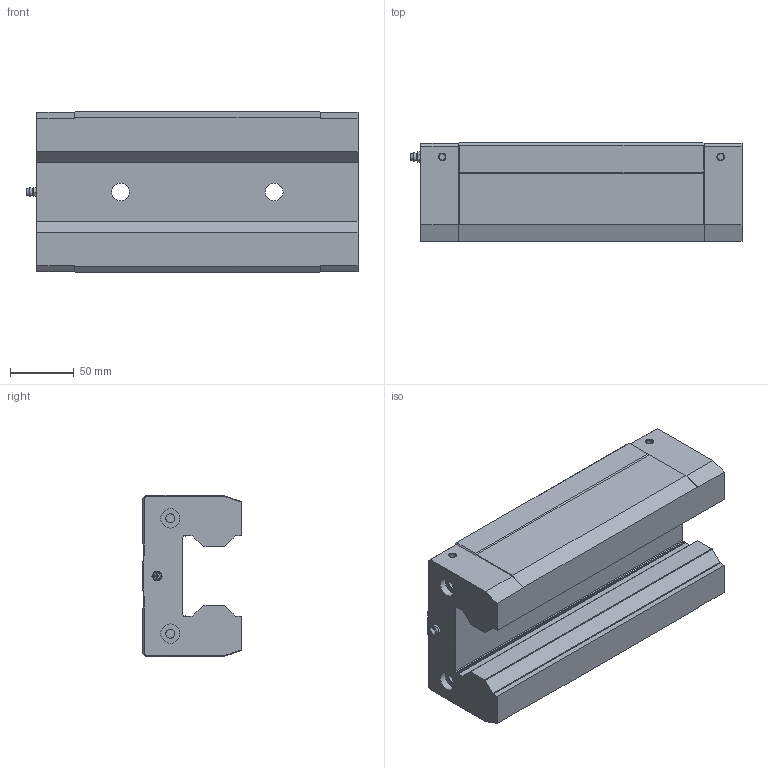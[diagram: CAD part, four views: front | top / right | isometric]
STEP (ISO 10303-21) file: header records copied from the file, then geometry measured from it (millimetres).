
FILE_DESCRIPTION(/* description */ ('STEP AP214'),/* implementation_level */ '2;1');
FILE_NAME(/* name */ 'ERG65P6LVC1N0______CAD_NO_(A-MT61)',/* time_stamp */ '2026-05-18T11:28:52+02:00',/* author */ ('License CC BY-ND 4.0'),/* organization */ ('CADENAS'),/* preprocessor_version */ 'ST-DEVELOPER v20',/* originating_system */ 'PARTsolutions',/* authorisation */ ' ');
FILE_SCHEMA (('AUTOMOTIVE_DESIGN {1 0 10303 214 3 1 1}'));
Length unit declared in the file: millimetre
Products named in the file (3): ERG65P6LVC1N0______CAD_NO_(A-MT61); ERG65LV01 Slider; hsr_ftht_A-M6F_grease_nipple_joint
Assembly tree (2 placements, depth 2):
  ERG65P6LVC1N0______CAD_NO_(A-MT61)
    ERG65LV01 Slider
    hsr_ftht_A-M6F_grease_nipple_joint
Bounding box: 259.41 x 77 x 126 mm (x, y, z)
Volume: 1749048.3 mm3; surface area: 150568.1 mm2
Topology: 2 solids, 2 shells, 166 faces, 409 edges, 264 vertices
Faces by surface type: plane 95, cylinder 43, cone 25, sphere 2, torus 1
Full cylindrical faces by diameter (mm): 4.917 x6, 6 x1, 7 x4, 10.2 x2, 13.835 x6, 15 x4
Entity records: 4667 total; most frequent: CARTESIAN_POINT 851, DIRECTION 776, ORIENTED_EDGE 704, EDGE_CURVE 352, AXIS2_PLACEMENT_3D 279, VERTEX_POINT 256, FACE_BOUND 236, EDGE_LOOP 232
